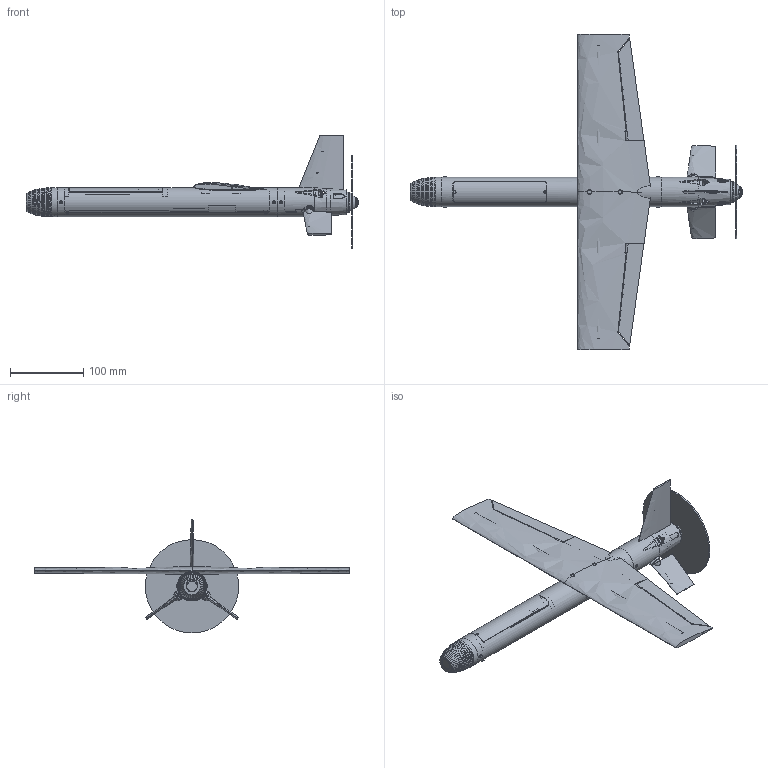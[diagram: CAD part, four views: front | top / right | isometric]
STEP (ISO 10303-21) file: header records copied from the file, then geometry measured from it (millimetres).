
FILE_DESCRIPTION(('SkyG Speed 90B - revision C6B-2 - 2026-10-08','C6B-assembly'),'2;1');
FILE_NAME('C6B-assembly_C6B-2','2026-10-08T01:12:39',('Author'),( 'Open CASCADE'),'Open CASCADE STEP processor 7.9','Open CASCADE 7.9' ,'Unknown');
FILE_SCHEMA(('AUTOMOTIVE_DESIGN { 1 0 10303 214 1 1 1 1 }'));
Length unit declared in the file: millimetre
Products named in the file (130): C4; N0M-nose-micro-camera; N0M-vtx-shelf; F3-tail-module; WR-wing-right; WL-wing-left; AR-aileron-right; AL-aileron-left; SR-stabilator-right; SL-stabilator-left; FN-fin; AHR-aileron-horn-right; AHL-aileron-horn-left; THR-tail-horn-right; THL-tail-horn-left; TR-equipment-tray; TC-tail-coupler; NB1-wing-nut-bar-front; NB2-wing-nut-bar-rear; HL1-hatch-lip-front; HL2-hatch-lip-rear; HF-front-hatch; HG-gps-carrier; M1-motor-plate; SP-spinner; ENV-motor; ENV-prop_disc; ENV-prop_hub_nut; ENV-battery; ENV-camera_micro19; ENV-cam_screws; ENV-O_o4_camera; ENV-O_o4_screws; ENV-O_o4_module; ENV-vtx; ENV-gnss; ENV-flight_controller; ENV-ail_servo_arm; ENV-ail_rod_R; ENV-ail_link_R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
Assembly tree (129 placements, depth 2):
  C4
    N0M-nose-micro-camera
    N0M-vtx-shelf
    F3-tail-module
    WR-wing-right
    WL-wing-left
    AR-aileron-right
    AL-aileron-left
    SR-stabilator-right
    SL-stabilator-left
    FN-fin
    AHR-aileron-horn-right
    AHL-aileron-horn-left
    THR-tail-horn-right
    THL-tail-horn-left
    TR-equipment-tray
    TC-tail-coupler
    NB1-wing-nut-bar-front
    NB2-wing-nut-bar-rear
    HL1-hatch-lip-front
    HL2-hatch-lip-rear
    HF-front-hatch
    HG-gps-carrier
    M1-motor-plate
    SP-spinner
    ENV-motor
    ENV-prop_disc
    ENV-prop_hub_nut
    ENV-battery
    ENV-camera_micro19
    ENV-cam_screws
    ENV-O_o4_camera
    ENV-O_o4_screws
    ENV-O_o4_module
    ENV-vtx
    ENV-gnss
    ENV-flight_controller
    ENV-ail_servo_arm
    ENV-ail_rod_R
    ENV-ail_link_R
    ENV-ail_rod_L
    ENV-ail_link_L
    ENV-ail_spine_R
    ENV-ail_spine_L
    ENV-receiver
    ENV-ant_elrs
    ENV-ant_vtx
    ENV-O_ant_video
    ENV-aileron_servo
    ENV-tail_servo_L
    ENV-tail_servo_R
    ENV-esc
    ENV-tail_servo_arm_R
    ENV-tail_link_R
    ENV-tail_servo_arm_L
    ENV-tail_link_L
    ENV-wire_video__red
    ENV-wire_video__black
    ENV-wire_video__yellow
    ENV-wire_video__white
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Bounding box: 452.19 x 430 x 155.1 mm (x, y, z)
Volume: 470674.4 mm3; surface area: 338299.9 mm2
Topology: 166 solids, 166 shells, 2159 faces, 5397 edges, 3572 vertices
Faces by surface type: plane 1382, cylinder 408, bspline 219, cone 110, torus 15, sphere 14, revolution 11
Full cylindrical faces by diameter (mm): 0.98 x6, 1.107 x11, 1.2 x22, 1.25 x8, 1.5 x2, 1.6 x26, 1.9 x1, 2 x26, 2.1 x2, 2.2 x12, 2.5 x2, 2.6 x6, 2.842 x6, 3 x13, 3.05 x2, 3.2 x4, 3.8 x10, 3.9 x3, 3.94 x3, 4 x4, 5 x4, 5.2 x3, 5.5 x4, 5.6 x3, 6 x3, 9 x1, 9.2 x1, 12.7 x1, 13 x2, 14 x1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
Entity records: 350081 total; most frequent: CARTESIAN_POINT 247033, DIRECTION 15966, ORIENTED_EDGE 10766, PCURVE 10766, DEFINITIONAL_REPRESENTATION 10766, LINE 7425, VECTOR 7425, EDGE_CURVE 5383
